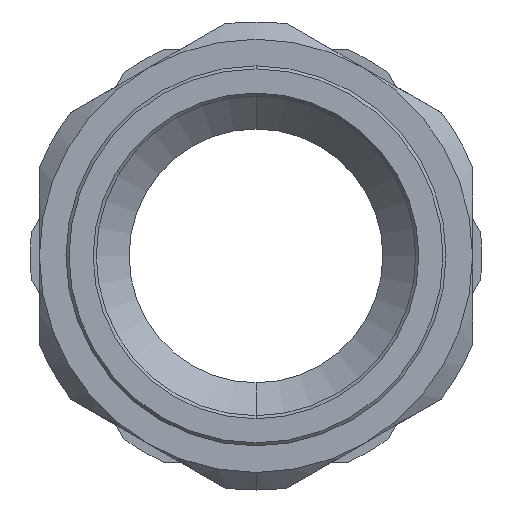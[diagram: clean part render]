
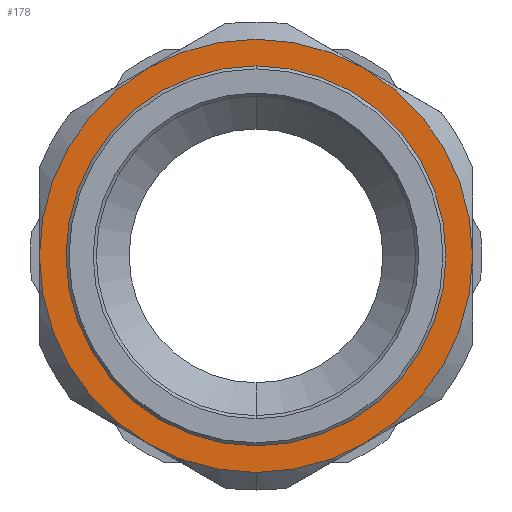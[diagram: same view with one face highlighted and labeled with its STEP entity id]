
A CAD part, front view. The second image highlights one B-rep face of the part: STEP entity #178.
In plain terms, the highlighted planar face has unit normal (0, -1, 0).
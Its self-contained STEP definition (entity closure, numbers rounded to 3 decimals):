
#54 = EDGE_CURVE ( 'NONE', #1116, #1140, #418, .T. ) ;
#138 = EDGE_CURVE ( 'NONE', #1059, #1087, #307, .T. ) ;
#142 = EDGE_CURVE ( 'NONE', #1071, #1070, #395, .T. ) ;
#143 = EDGE_CURVE ( 'NONE', #1109, #1036, #394, .T. ) ;
#144 = EDGE_CURVE ( 'NONE', #1072, #1071, #393, .T. ) ;
#145 = EDGE_CURVE ( 'NONE', #1070, #1059, #392, .T. ) ;
#146 = EDGE_CURVE ( 'NONE', #1087, #1116, #391, .T. ) ;
#147 = EDGE_CURVE ( 'NONE', #1140, #1072, #390, .T. ) ;
#178 = ADVANCED_FACE ( 'NONE', ( #750, #748 ), #1503, .F. ) ;
#183 = EDGE_CURVE ( 'NONE', #1036, #1109, #384, .T. ) ;
#307 = CIRCLE ( 'NONE', #815, 35.85 ) ;
#384 = CIRCLE ( 'NONE', #740, 31.45 ) ;
#390 = CIRCLE ( 'NONE', #790, 35.85 ) ;
#391 = CIRCLE ( 'NONE', #791, 35.85 ) ;
#392 = CIRCLE ( 'NONE', #793, 35.85 ) ;
#393 = CIRCLE ( 'NONE', #797, 35.85 ) ;
#394 = CIRCLE ( 'NONE', #799, 31.45 ) ;
#395 = CIRCLE ( 'NONE', #794, 35.85 ) ;
#418 = CIRCLE ( 'NONE', #512, 35.85 ) ;
#512 = AXIS2_PLACEMENT_3D ( 'NONE', #1963, #1962, #1961 ) ;
#740 = AXIS2_PLACEMENT_3D ( 'NONE', #1486, #1485, #1484 ) ;
#746 = AXIS2_PLACEMENT_3D ( 'NONE', #1502, #1501, #1500 ) ;
#748 = FACE_OUTER_BOUND ( 'NONE', #956, .T. ) ;
#750 = FACE_BOUND ( 'NONE', #1013, .T. ) ;
#790 = AXIS2_PLACEMENT_3D ( 'NONE', #1672, #1671, #1670 ) ;
#791 = AXIS2_PLACEMENT_3D ( 'NONE', #1675, #1674, #1673 ) ;
#793 = AXIS2_PLACEMENT_3D ( 'NONE', #1678, #1677, #1676 ) ;
#794 = AXIS2_PLACEMENT_3D ( 'NONE', #1690, #1686, #1685 ) ;
#797 = AXIS2_PLACEMENT_3D ( 'NONE', #1681, #1680, #1679 ) ;
#799 = AXIS2_PLACEMENT_3D ( 'NONE', #1684, #1683, #1682 ) ;
#815 = AXIS2_PLACEMENT_3D ( 'NONE', #1705, #1698, #1697 ) ;
#956 = EDGE_LOOP ( 'NONE', ( #1256, #1258, #1257, #1259, #1260, #1261, #1262 ) ) ;
#1013 = EDGE_LOOP ( 'NONE', ( #1251, #1255 ) ) ;
#1036 = VERTEX_POINT ( 'NONE', #2038 ) ;
#1059 = VERTEX_POINT ( 'NONE', #2015 ) ;
#1070 = VERTEX_POINT ( 'NONE', #2134 ) ;
#1071 = VERTEX_POINT ( 'NONE', #2171 ) ;
#1072 = VERTEX_POINT ( 'NONE', #2174 ) ;
#1087 = VERTEX_POINT ( 'NONE', #2313 ) ;
#1109 = VERTEX_POINT ( 'NONE', #2306 ) ;
#1116 = VERTEX_POINT ( 'NONE', #2297 ) ;
#1140 = VERTEX_POINT ( 'NONE', #2200 ) ;
#1251 = ORIENTED_EDGE ( 'NONE', *, *, #183, .F. ) ;
#1255 = ORIENTED_EDGE ( 'NONE', *, *, #143, .F. ) ;
#1256 = ORIENTED_EDGE ( 'NONE', *, *, #144, .T. ) ;
#1257 = ORIENTED_EDGE ( 'NONE', *, *, #145, .T. ) ;
#1258 = ORIENTED_EDGE ( 'NONE', *, *, #142, .T. ) ;
#1259 = ORIENTED_EDGE ( 'NONE', *, *, #138, .T. ) ;
#1260 = ORIENTED_EDGE ( 'NONE', *, *, #146, .T. ) ;
#1261 = ORIENTED_EDGE ( 'NONE', *, *, #54, .T. ) ;
#1262 = ORIENTED_EDGE ( 'NONE', *, *, #147, .T. ) ;
#1484 = DIRECTION ( 'NONE',  ( 0., 0., -1. ) ) ;
#1485 = DIRECTION ( 'NONE',  ( 0., -1., 0. ) ) ;
#1486 = CARTESIAN_POINT ( 'NONE',  ( 0., 1., 0. ) ) ;
#1500 = DIRECTION ( 'NONE',  ( 0., 0., 1. ) ) ;
#1501 = DIRECTION ( 'NONE',  ( 0., 1., 0. ) ) ;
#1502 = CARTESIAN_POINT ( 'NONE',  ( -38.75, 1., 0. ) ) ;
#1503 = PLANE ( 'NONE',  #746 ) ;
#1670 = DIRECTION ( 'NONE',  ( 0., 0., -1. ) ) ;
#1671 = DIRECTION ( 'NONE',  ( 0., -1., 0. ) ) ;
#1672 = CARTESIAN_POINT ( 'NONE',  ( 0., 1., 0. ) ) ;
#1673 = DIRECTION ( 'NONE',  ( 0., 0., -1. ) ) ;
#1674 = DIRECTION ( 'NONE',  ( 0., -1., 0. ) ) ;
#1675 = CARTESIAN_POINT ( 'NONE',  ( 0., 1., 0. ) ) ;
#1676 = DIRECTION ( 'NONE',  ( 0., 0., -1. ) ) ;
#1677 = DIRECTION ( 'NONE',  ( 0., -1., 0. ) ) ;
#1678 = CARTESIAN_POINT ( 'NONE',  ( 0., 1., 0. ) ) ;
#1679 = DIRECTION ( 'NONE',  ( 0., 0., -1. ) ) ;
#1680 = DIRECTION ( 'NONE',  ( 0., -1., 0. ) ) ;
#1681 = CARTESIAN_POINT ( 'NONE',  ( 0., 1., 0. ) ) ;
#1682 = DIRECTION ( 'NONE',  ( 0., 0., -1. ) ) ;
#1683 = DIRECTION ( 'NONE',  ( 0., -1., 0. ) ) ;
#1684 = CARTESIAN_POINT ( 'NONE',  ( 0., 1., 0. ) ) ;
#1685 = DIRECTION ( 'NONE',  ( 0., 0., -1. ) ) ;
#1686 = DIRECTION ( 'NONE',  ( 0., -1., 0. ) ) ;
#1690 = CARTESIAN_POINT ( 'NONE',  ( 0., 1., 0. ) ) ;
#1697 = DIRECTION ( 'NONE',  ( 0., 0., -1. ) ) ;
#1698 = DIRECTION ( 'NONE',  ( 0., -1., 0. ) ) ;
#1705 = CARTESIAN_POINT ( 'NONE',  ( 0., 1., 0. ) ) ;
#1961 = DIRECTION ( 'NONE',  ( 0., 0., -1. ) ) ;
#1962 = DIRECTION ( 'NONE',  ( 0., -1., 0. ) ) ;
#1963 = CARTESIAN_POINT ( 'NONE',  ( 0., 1., 0. ) ) ;
#2015 = CARTESIAN_POINT ( 'NONE',  ( -35.85, 1., 0. ) ) ;
#2038 = CARTESIAN_POINT ( 'NONE',  ( 0., 1., -31.45 ) ) ;
#2134 = CARTESIAN_POINT ( 'NONE',  ( -17.925, 1., 31.047 ) ) ;
#2171 = CARTESIAN_POINT ( 'NONE',  ( 17.925, 1., 31.047 ) ) ;
#2174 = CARTESIAN_POINT ( 'NONE',  ( 35.85, 1., 0. ) ) ;
#2200 = CARTESIAN_POINT ( 'NONE',  ( 17.925, 1., -31.047 ) ) ;
#2297 = CARTESIAN_POINT ( 'NONE',  ( 0., 1., -35.85 ) ) ;
#2306 = CARTESIAN_POINT ( 'NONE',  ( 0., 1., 31.45 ) ) ;
#2313 = CARTESIAN_POINT ( 'NONE',  ( -17.925, 1., -31.047 ) ) ;
